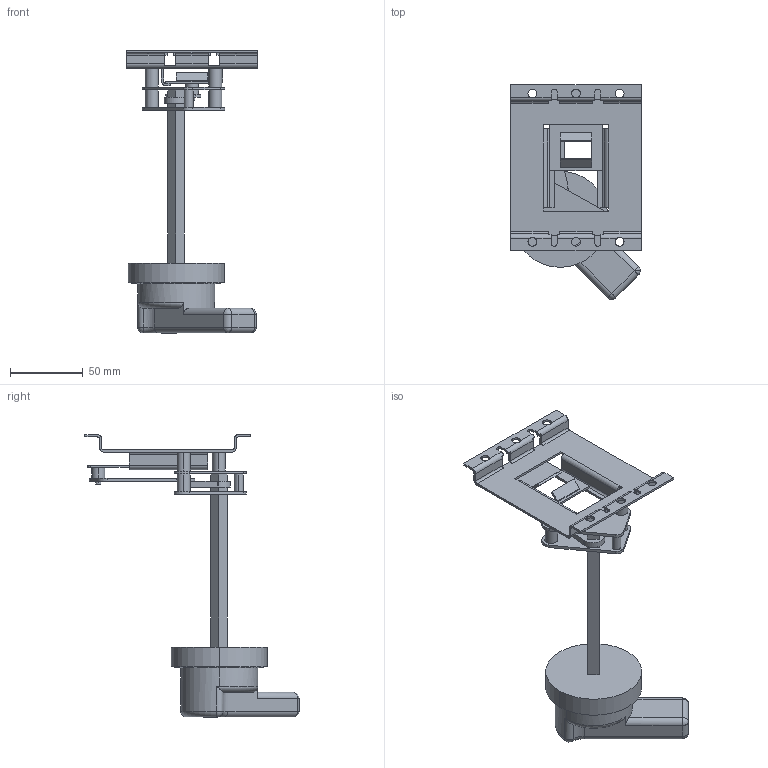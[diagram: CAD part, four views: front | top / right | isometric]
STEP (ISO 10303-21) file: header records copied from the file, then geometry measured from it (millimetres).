
FILE_DESCRIPTION (( 'STEP AP203' ), '1' );
FILE_NAME ('Ðó÷íîé ïîâîðîòíûé ïðèâîä ýêñöåíòðèêîì ê ÂÀ-99Ì 100À.STEP', '2018-06-08T13:08:02', ( '' ), ( '' ), 'SwSTEP 2.0', 'SolidWorks 2017', '' );
FILE_SCHEMA (( 'CONFIG_CONTROL_DESIGN' ));
Length unit declared in the file: millimetre
Products named in the file (1): Ðó÷íîé ïîâîðîòíûé ïðèâîä ýêñöåíòðèêîì ê ÂÀ-99Ì 100À
Bounding box: 90 x 147.16 x 194.2 mm (x, y, z)
Volume: 169028.9 mm3; surface area: 58044.3 mm2
Topology: 1 solids, 1 shells, 255 faces, 743 edges, 479 vertices
Faces by surface type: plane 138, cylinder 95, sphere 8, cone 5, torus 5, bspline 4
Entity records: 8922 total; most frequent: CARTESIAN_POINT 1949, ORIENTED_EDGE 1474, DIRECTION 1439, EDGE_CURVE 737, AXIS2_PLACEMENT_3D 486, VERTEX_POINT 476, VECTOR 467, LINE 467
